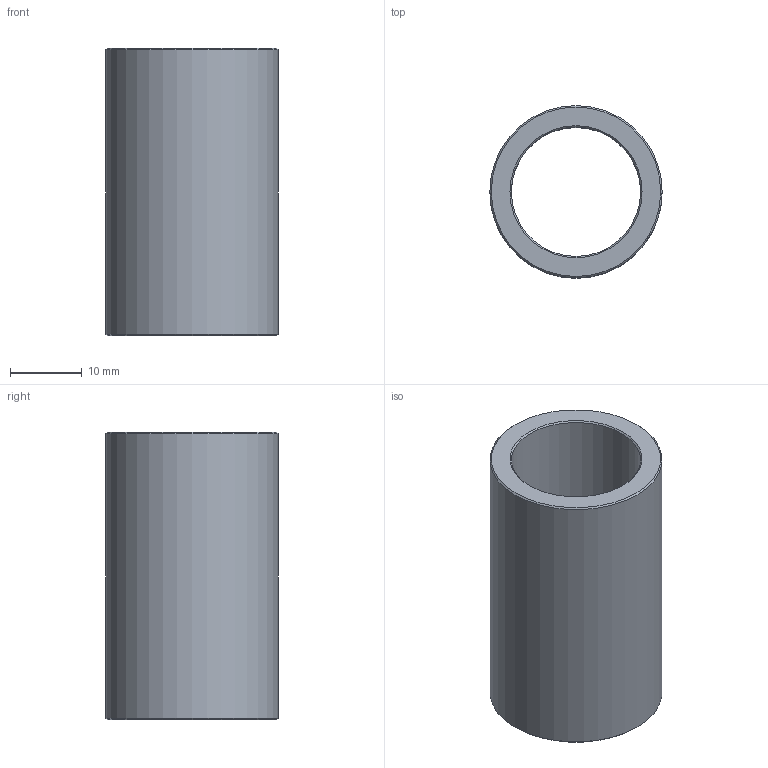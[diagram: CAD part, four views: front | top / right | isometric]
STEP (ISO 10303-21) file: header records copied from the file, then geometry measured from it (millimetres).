
FILE_DESCRIPTION(('STEP AP203'),'1');
FILE_NAME('C:/Users/Rodrigo/Desktop/GA3.018.040-1.step','2016-11-07T13:01:28',(' '),(' '),'Spatial InterOp 3D',' ',' ');
FILE_SCHEMA(('CONFIG_CONTROL_DESIGN'));
Length unit declared in the file: millimetre
Products named in the file (1): 1
Bounding box: 24 x 24 x 40 mm (x, y, z)
Volume: 7911.5 mm3; surface area: 5642.8 mm2
Topology: 1 solids, 1 shells, 8 faces, 14 edges, 8 vertices
Faces by surface type: cone 4, cylinder 2, plane 2
Full cylindrical faces by diameter (mm): 18 x1, 24 x1
Entity records: 212 total; most frequent: DIRECTION 34, CARTESIAN_POINT 25, AXIS2_PLACEMENT_3D 17, EDGE_LOOP 16, ORIENTED_EDGE 16, FACE_OUTER_BOUND 10, ADVANCED_FACE 8, EDGE_CURVE 8
